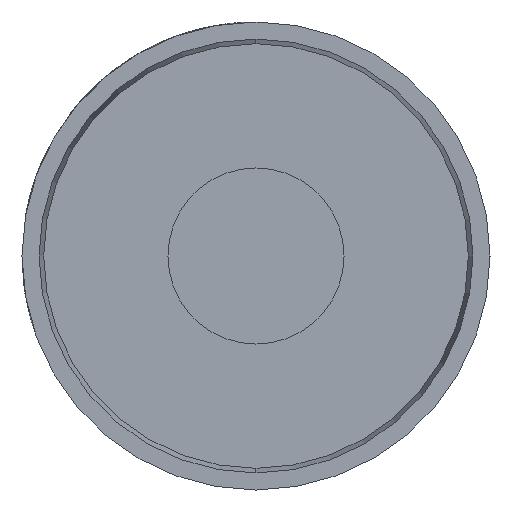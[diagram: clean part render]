
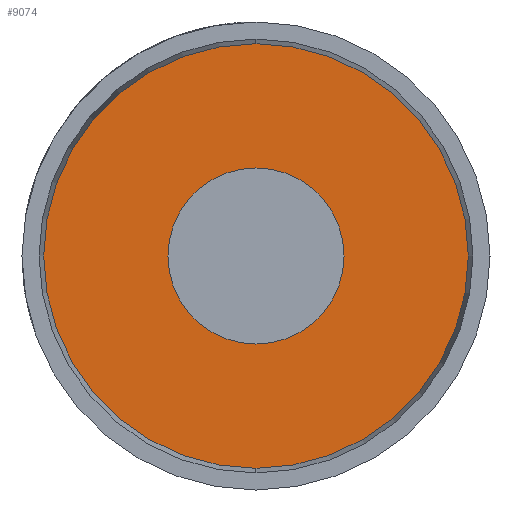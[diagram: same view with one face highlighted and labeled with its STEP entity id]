
A CAD part, left-side view. The second image highlights one B-rep face of the part: STEP entity #9074.
In plain terms, the highlighted planar face has unit normal (-1, 0, 0).
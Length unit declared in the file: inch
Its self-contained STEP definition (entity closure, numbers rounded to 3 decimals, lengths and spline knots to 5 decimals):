
#125 = ORIENTED_EDGE ( 'NONE', *, *, #15442, .F. ) ;
#1098 = VERTEX_POINT ( 'NONE', #6315 ) ;
#1864 = VERTEX_POINT ( 'NONE', #16565 ) ;
#3314 = FACE_OUTER_BOUND ( 'NONE', #12673, .T. ) ;
#3329 = EDGE_CURVE ( 'NONE', #1098, #5814, #16820, .T. ) ;
#4716 = CARTESIAN_POINT ( 'NONE',  ( 0., 0., 0. ) ) ;
#5411 = EDGE_CURVE ( 'NONE', #5814, #1098, #16063, .T. ) ;
#5545 = AXIS2_PLACEMENT_3D ( 'NONE', #11266, #11356, #16951 ) ;
#5814 = VERTEX_POINT ( 'NONE', #12828 ) ;
#6047 = DIRECTION ( 'NONE',  ( -1., 0., 0. ) ) ;
#6081 = CIRCLE ( 'NONE', #11034, 0.03525 ) ;
#6256 = PLANE ( 'NONE',  #10702 ) ;
#6315 = CARTESIAN_POINT ( 'NONE',  ( 0., 0., 0.085 ) ) ;
#6436 = DIRECTION ( 'NONE',  ( 1., 0., 0. ) ) ;
#7703 = CARTESIAN_POINT ( 'NONE',  ( 0., 0., 0. ) ) ;
#8877 = DIRECTION ( 'NONE',  ( 0., 0., 1. ) ) ;
#8917 = FACE_BOUND ( 'NONE', #10950, .T. ) ;
#9074 = ADVANCED_FACE ( 'NONE', ( #8917, #3314 ), #6256, .F. ) ;
#10147 = CARTESIAN_POINT ( 'NONE',  ( 0., 0., 0.03525 ) ) ;
#10284 = DIRECTION ( 'NONE',  ( -1., 0., 0. ) ) ;
#10702 = AXIS2_PLACEMENT_3D ( 'NONE', #7703, #6436, #17241 ) ;
#10725 = DIRECTION ( 'NONE',  ( -1., 0., 0. ) ) ;
#10950 = EDGE_LOOP ( 'NONE', ( #17010, #125 ) ) ;
#11034 = AXIS2_PLACEMENT_3D ( 'NONE', #4716, #10284, #12901 ) ;
#11266 = CARTESIAN_POINT ( 'NONE',  ( 0., 0., 0. ) ) ;
#11356 = DIRECTION ( 'NONE',  ( -1., 0., 0. ) ) ;
#11988 = ORIENTED_EDGE ( 'NONE', *, *, #5411, .T. ) ;
#12071 = VERTEX_POINT ( 'NONE', #10147 ) ;
#12673 = EDGE_LOOP ( 'NONE', ( #16308, #11988 ) ) ;
#12828 = CARTESIAN_POINT ( 'NONE',  ( 0., 0., -0.085 ) ) ;
#12901 = DIRECTION ( 'NONE',  ( 0., 0., 1. ) ) ;
#13257 = DIRECTION ( 'NONE',  ( 0., 0., 1. ) ) ;
#13325 = CARTESIAN_POINT ( 'NONE',  ( 0., 0., 0. ) ) ;
#13379 = CIRCLE ( 'NONE', #5545, 0.03525 ) ;
#14599 = EDGE_CURVE ( 'NONE', #12071, #1864, #6081, .T. ) ;
#15018 = CARTESIAN_POINT ( 'NONE',  ( 0., 0., 0. ) ) ;
#15066 = AXIS2_PLACEMENT_3D ( 'NONE', #13325, #6047, #8877 ) ;
#15442 = EDGE_CURVE ( 'NONE', #1864, #12071, #13379, .T. ) ;
#16063 = CIRCLE ( 'NONE', #16657, 0.085 ) ;
#16308 = ORIENTED_EDGE ( 'NONE', *, *, #3329, .T. ) ;
#16565 = CARTESIAN_POINT ( 'NONE',  ( 0., 0., -0.03525 ) ) ;
#16657 = AXIS2_PLACEMENT_3D ( 'NONE', #15018, #10725, #13257 ) ;
#16820 = CIRCLE ( 'NONE', #15066, 0.085 ) ;
#16951 = DIRECTION ( 'NONE',  ( 0., 0., 1. ) ) ;
#17010 = ORIENTED_EDGE ( 'NONE', *, *, #14599, .F. ) ;
#17241 = DIRECTION ( 'NONE',  ( 0., 0., -1. ) ) ;
